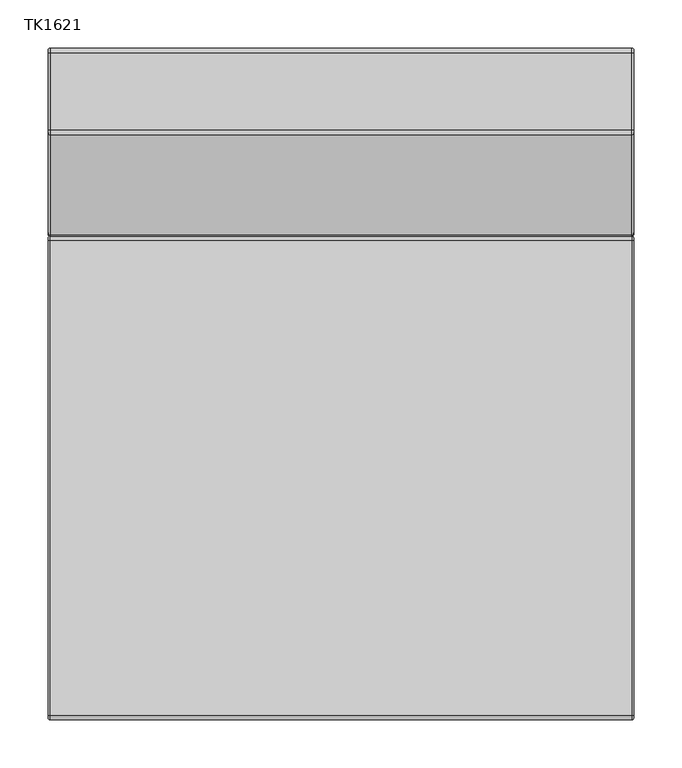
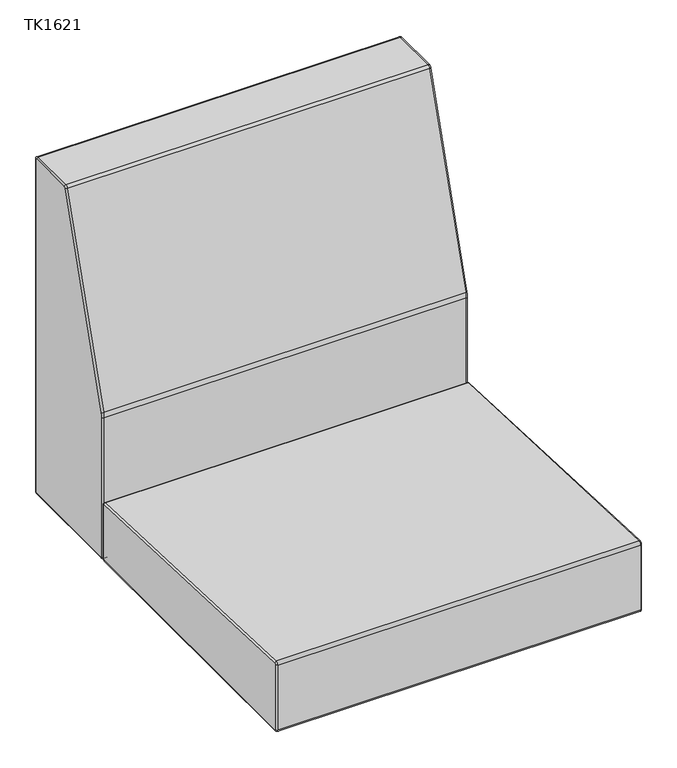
"""IFC4 building model written with IfcOpenShell, lengths in millimetres: furniture geometry, JSI-Teekan-Two_Seat_Lounge : TK1621."""

from ifc_helpers import new_model, si_unit, point, frame, origin, place, context, project, spatial, circle_curve, ellipse_curve, trimmed, source, transform, mapped, element, save
from ifc_brep_helpers import plane_surface, cylinder_surface, revolved_surface, advanced_brep


def tk1621_9733f8f7(model_context):
    return source(origin(), model_context, "Body", "AdvancedBrep", [
        advanced_brep(
        [(-607.21875, -349.25, 197.5346851), (-2.38125, -349.25, 197.5346851), (-2.38125, -349.25, 311.8407029), (-607.21875, -349.25, 311.8407029), (-609.6, -346.86875, 311.8407029), (-609.6, -346.86875, 197.5346851), (0.0, -346.86875, 197.5346851), (0.0, -346.86875, 311.8407029), (-607.21875, -344.2853462, 316.5989106), (-2.38125, -344.2853462, 316.5989106), (-2.38125, 149.169864, 295.6343219), (-607.21875, 149.169864, 295.6343219), (-609.6, 149.0687871, 293.255218), (-609.6, -344.3864231, 314.2198068), (0.0, -344.3864231, 314.2198068), (0.0, 149.0687871, 293.255218), (-2.38125, 153.7302102, 290.8761142), (-607.21875, 153.7302102, 290.8761142), (-609.6, 151.3489602, 290.8761142), (0.0, 151.3489602, 290.8761142), (-2.38125, 153.7302102, 197.5346851), (-607.21875, 153.7302102, 197.5346851), (-609.6, 151.3489602, 197.5346851), (0.0, 151.3489602, 197.5346851), (-2.38125, 148.9677102, 192.7721851), (-607.21875, 148.9677102, 192.7721851), (-609.6, 148.9677102, 195.1534351), (0.0, 148.9677102, 195.1534351), (-2.38125, -344.4875, 192.7721851), (-607.21875, -344.4875, 192.7721851), (-609.6, -344.4875, 195.1534351), (0.0, -344.4875, 195.1534351)],
        [
            (0, 1),
            (1, 2),
            (2, 3),
            (3, 0),
            (3, 4, circle_curve(frame((-607.21875, -346.86875, 311.8407029), z_axis=(0.0, 0.0, -1.0), x_axis=(0.0, -1.0, 0.0)), 2.38125)),
            (4, 5),
            (5, 0, circle_curve(frame((-607.21875, -346.86875, 197.5346851), z_axis=(0.0, 0.0, 1.0), x_axis=(0.0, -1.0, 0.0)), 2.38125)),
            (1, 6, circle_curve(frame((-2.38125, -346.86875, 197.5346851), z_axis=(0.0, 0.0, 1.0), x_axis=(0.0, -1.0, 0.0)), 2.38125)),
            (6, 7),
            (7, 2, circle_curve(frame((-2.38125, -346.86875, 311.8407029), z_axis=(0.0, 0.0, -1.0), x_axis=(0.0, -1.0, 0.0)), 2.38125)),
            (8, 9),
            (9, 10),
            (10, 11),
            (11, 8),
            (11, 12, circle_curve(frame((-607.21875, 149.0687871, 293.255218), z_axis=(0.0, -0.9990987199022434, 0.04244700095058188), x_axis=(0.0, 0.04244700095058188, 0.9990987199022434)), 2.38125)),
            (12, 13),
            (13, 8, circle_curve(frame((-607.21875, -344.3864231, 314.2198068), z_axis=(0.0, 0.9990987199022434, -0.04244700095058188), x_axis=(0.0, 0.04244700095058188, 0.9990987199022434)), 2.38125)),
            (9, 14, circle_curve(frame((-2.38125, -344.3864231, 314.2198068), z_axis=(0.0, 0.9990987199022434, -0.04244700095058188), x_axis=(0.0, 0.04244700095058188, 0.9990987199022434)), 2.38125)),
            (14, 15),
            (15, 10, circle_curve(frame((-2.38125, 149.0687871, 293.255218), z_axis=(0.0, -0.9990987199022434, 0.04244700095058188), x_axis=(0.0, 0.04244700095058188, 0.9990987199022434)), 2.38125)),
            (10, 16, circle_curve(frame((-2.38125, 148.9677102, 290.8761142), z_axis=(-1.0, 0.0, 0.0), x_axis=(0.0, 0.0424470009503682, 0.9990987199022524)), 4.7625)),
            (16, 17),
            (17, 11, circle_curve(frame((-607.21875, 148.9677102, 290.8761142), z_axis=(1.0, 0.0, 0.0), x_axis=(0.0, 0.0424470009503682, 0.9990987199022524)), 4.7625)),
            (17, 18, circle_curve(frame((-607.21875, 151.3489602, 290.8761142), z_axis=(0.0, 0.0, 1.0), x_axis=(0.0, 1.0, 0.0)), 2.38125)),
            (18, 12, circle_curve(frame((-609.6, 148.9677102, 290.8761142), z_axis=(1.0, 0.0, 0.0), x_axis=(0.0, 0.0424470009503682, 0.9990987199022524)), 2.38125)),
            (15, 19, circle_curve(frame((0.0, 148.9677102, 290.8761142), z_axis=(-1.0, 0.0, 0.0), x_axis=(0.0, 0.0424470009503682, 0.9990987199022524)), 2.38125)),
            (19, 16, circle_curve(frame((-2.38125, 151.3489602, 290.8761142), z_axis=(0.0, 0.0, 1.0), x_axis=(0.0, 1.0, 0.0)), 2.38125)),
            (16, 20),
            (20, 21),
            (21, 17),
            (21, 22, circle_curve(frame((-607.21875, 151.3489602, 197.5346851), z_axis=(0.0, 0.0, 1.0), x_axis=(0.0, 1.0, 0.0)), 2.38125)),
            (22, 18),
            (19, 23),
            (23, 20, circle_curve(frame((-2.38125, 151.3489602, 197.5346851), z_axis=(0.0, 0.0, 1.0), x_axis=(0.0, 1.0, 0.0)), 2.38125)),
            (20, 24, circle_curve(frame((-2.38125, 148.9677102, 197.5346851), z_axis=(-1.0, 0.0, 0.0), x_axis=(0.0, 1.0, 0.0)), 4.7625)),
            (24, 25),
            (25, 21, circle_curve(frame((-607.21875, 148.9677102, 197.5346851), z_axis=(1.0, 0.0, 0.0), x_axis=(0.0, 1.0, 0.0)), 4.7625)),
            (25, 26, circle_curve(frame((-607.21875, 148.9677102, 195.1534351), z_axis=(0.0, 1.0, 0.0), x_axis=(0.0, 0.0, -1.0)), 2.38125)),
            (26, 22, circle_curve(frame((-609.6, 148.9677102, 197.5346851), z_axis=(1.0, 0.0, 0.0), x_axis=(0.0, 1.0, 0.0)), 2.38125)),
            (23, 27, circle_curve(frame((0.0, 148.9677102, 197.5346851), z_axis=(-1.0, 0.0, 0.0), x_axis=(0.0, 1.0, 0.0)), 2.38125)),
            (27, 24, circle_curve(frame((-2.38125, 148.9677102, 195.1534351), z_axis=(0.0, 1.0, 0.0), x_axis=(0.0, 0.0, -1.0)), 2.38125)),
            (24, 28),
            (28, 29),
            (29, 25),
            (29, 30, circle_curve(frame((-607.21875, -344.4875, 195.1534351), z_axis=(0.0, 1.0, 0.0), x_axis=(0.0, 0.0, -1.0)), 2.38125)),
            (30, 26),
            (27, 31),
            (31, 28, circle_curve(frame((-2.38125, -344.4875, 195.1534351), z_axis=(0.0, 1.0, 0.0), x_axis=(0.0, 0.0, -1.0)), 2.38125)),
            (0, 29, circle_curve(frame((-607.21875, -344.4875, 197.5346851), z_axis=(1.0, 0.0, 0.0), x_axis=(0.0, 0.0, -1.0)), 4.7625)),
            (28, 1, circle_curve(frame((-2.38125, -344.4875, 197.5346851), z_axis=(-1.0, 0.0, 0.0), x_axis=(0.0, 0.0, -1.0)), 4.7625)),
            (5, 30, circle_curve(frame((-609.6, -344.4875, 197.5346851), z_axis=(1.0, 0.0, 0.0), x_axis=(0.0, 0.0, -1.0)), 2.38125)),
            (31, 6, circle_curve(frame((0.0, -344.4875, 197.5346851), z_axis=(-1.0, 0.0, 0.0), x_axis=(0.0, 0.0, -1.0)), 2.38125)),
            (2, 9, circle_curve(frame((-2.38125, -344.4875, 311.8407029), z_axis=(-1.0, 0.0, 0.0), x_axis=(0.0, -1.0, 0.0)), 4.7625)),
            (8, 3, circle_curve(frame((-607.21875, -344.4875, 311.8407029), z_axis=(1.0, 0.0, 0.0), x_axis=(0.0, -1.0, 0.0)), 4.7625)),
            (13, 4, circle_curve(frame((-609.6, -344.4875, 311.8407029), z_axis=(1.0, 0.0, 0.0), x_axis=(0.0, -1.0, 0.0)), 2.38125)),
            (14, 7, circle_curve(frame((0.0, -344.4875, 311.8407029), z_axis=(1.0, 0.0, 0.0), x_axis=(0.0, -1.0, 0.0)), 2.38125)),
        ],
        [
            plane_surface(frame((-2.38125, -349.25, 197.5346851), z_axis=(0.0, -1.0, 0.0), x_axis=(0.0, 0.0, 1.0))),
            cylinder_surface(frame((-607.21875, -346.86875, 197.5346851), z_axis=(0.0, 0.0, -1.0), x_axis=(0.0, -1.0, 0.0)), 2.38125),
            cylinder_surface(frame((-2.38125, -346.86875, 197.5346851), z_axis=(0.0, 0.0, -1.0), x_axis=(0.0, -1.0, 0.0)), 2.38125),
            plane_surface(frame((-2.38125, -344.2853462, 316.5989106), z_axis=(0.0, 0.04244700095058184, 0.9990987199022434), x_axis=(0.0, 0.9990987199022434, -0.04244700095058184))),
            cylinder_surface(frame((-607.21875, -344.3864231, 314.2198068), z_axis=(0.0, -0.9990987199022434, 0.04244700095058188), x_axis=(0.0, 0.04244700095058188, 0.9990987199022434)), 2.38125),
            cylinder_surface(frame((-2.38125, -344.3864231, 314.2198068), z_axis=(0.0, -0.9990987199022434, 0.04244700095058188), x_axis=(0.0, 0.04244700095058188, 0.9990987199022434)), 2.38125),
            cylinder_surface(frame((-304.8, 148.9677102, 290.8761142), z_axis=(-1.0, 0.0, 0.0), x_axis=(0.0, 0.0424470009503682, 0.9990987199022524)), 4.7625),
            revolved_surface(trimmed(ellipse_curve(frame((-607.21875, 149.0687871, 293.255218), z_axis=(0.0, -0.9990987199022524, 0.042447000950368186), x_axis=(0.0, 0.042447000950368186, 0.9990987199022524)), 2.38125, 2.38125), [point((-607.21875, 149.169864, 295.6343219))], [point((-609.6, 149.0687871, 293.255218))], True, "CARTESIAN"), (-304.8, 148.9677102, 290.8761142), (-1.0, 0.0, 0.0)),
            revolved_surface(trimmed(ellipse_curve(frame((-2.38125, 149.0687871, 293.255218), z_axis=(0.0, -0.9990987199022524, 0.042447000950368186), x_axis=(0.0, 0.042447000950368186, 0.9990987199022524)), 2.38125, 2.38125), [point((0.0, 149.0687871, 293.255218))], [point((-2.38125, 149.169864, 295.6343219))], True, "CARTESIAN"), (-304.8, 148.9677102, 290.8761142), (-1.0, 0.0, 0.0)),
            plane_surface(frame((-2.38125, 153.7302102, 290.8761142), z_axis=(0.0, 1.0, 0.0), x_axis=(0.0, 0.0, -1.0))),
            cylinder_surface(frame((-607.21875, 151.3489602, 290.8761142), z_axis=(0.0, 0.0, 1.0), x_axis=(0.0, 1.0, 0.0)), 2.38125),
            cylinder_surface(frame((-2.38125, 151.3489602, 290.8761142), z_axis=(0.0, 0.0, 1.0), x_axis=(0.0, 1.0, 0.0)), 2.38125),
            cylinder_surface(frame((-304.8, 148.9677102, 197.5346851), z_axis=(-1.0, 0.0, 0.0), x_axis=(0.0, 1.0, 0.0)), 4.7625),
            revolved_surface(trimmed(ellipse_curve(frame((-607.21875, 151.3489602, 197.5346851), z_axis=(0.0, 0.0, 1.0), x_axis=(0.0, 1.0, 0.0)), 2.38125, 2.38125), [point((-607.21875, 153.7302102, 197.5346851))], [point((-609.6, 151.3489602, 197.5346851))], True, "CARTESIAN"), (-304.8, 148.9677102, 197.5346851), (-1.0, 0.0, 0.0)),
            revolved_surface(trimmed(ellipse_curve(frame((-2.38125, 151.3489602, 197.5346851), z_axis=(0.0, 0.0, 1.0), x_axis=(0.0, 1.0, 0.0)), 2.38125, 2.38125), [point((0.0, 151.3489602, 197.5346851))], [point((-2.38125, 153.7302102, 197.5346851))], True, "CARTESIAN"), (-304.8, 148.9677102, 197.5346851), (-1.0, 0.0, 0.0)),
            plane_surface(frame((-2.38125, 148.9677102, 192.7721851), z_axis=(0.0, 0.0, -1.0), x_axis=(0.0, -1.0, 0.0))),
            cylinder_surface(frame((-607.21875, 148.9677102, 195.1534351), z_axis=(0.0, 1.0, 0.0), x_axis=(0.0, 0.0, -1.0)), 2.38125),
            cylinder_surface(frame((-2.38125, 148.9677102, 195.1534351), z_axis=(0.0, 1.0, 0.0), x_axis=(0.0, 0.0, -1.0)), 2.38125),
            cylinder_surface(frame((-304.8, -344.4875, 197.5346851), z_axis=(-1.0, 0.0, 0.0), x_axis=(0.0, 0.0, -1.0)), 4.7625),
            revolved_surface(trimmed(ellipse_curve(frame((-607.21875, -344.4875, 195.1534351), z_axis=(0.0, 1.0, 0.0), x_axis=(0.0, 0.0, -1.0)), 2.38125, 2.38125), [point((-607.21875, -344.4875, 192.7721851))], [point((-609.6, -344.4875, 195.1534351))], True, "CARTESIAN"), (-304.8, -344.4875, 197.5346851), (-1.0, 0.0, 0.0)),
            revolved_surface(trimmed(ellipse_curve(frame((-2.38125, -344.4875, 195.1534351), z_axis=(0.0, 1.0, 0.0), x_axis=(0.0, 0.0, -1.0)), 2.38125, 2.38125), [point((0.0, -344.4875, 195.1534351))], [point((-2.38125, -344.4875, 192.7721851))], True, "CARTESIAN"), (-304.8, -344.4875, 197.5346851), (-1.0, 0.0, 0.0)),
            cylinder_surface(frame((-304.8, -344.4875, 311.8407029), z_axis=(-1.0, 0.0, 0.0), x_axis=(0.0, -1.0, 0.0)), 4.7625),
            revolved_surface(trimmed(ellipse_curve(frame((-607.21875, -346.86875, 311.8407029), z_axis=(0.0, 0.0, -1.0), x_axis=(0.0, -1.0, 0.0)), 2.38125, 2.38125), [point((-607.21875, -349.25, 311.8407029))], [point((-609.6, -346.86875, 311.8407029))], True, "CARTESIAN"), (-304.8, -344.4875, 311.8407029), (-1.0, 0.0, 0.0)),
            plane_surface(frame((-609.6, -344.4875, 311.8407029), z_axis=(-1.0, 0.0, 0.0), x_axis=(0.0, -1.0, 0.0))),
            plane_surface(frame((0.0, -344.4875, 311.8407029), z_axis=(1.0, 0.0, 0.0), x_axis=(0.0, -1.0, 0.0))),
            revolved_surface(trimmed(ellipse_curve(frame((-2.38125, -346.86875, 311.8407029), z_axis=(0.0, 0.0, -1.0), x_axis=(0.0, -1.0, 0.0)), 2.38125, 2.38125), [point((0.0, -346.86875, 311.8407029))], [point((-2.38125, -349.25, 311.8407029))], True, "CARTESIAN"), (-304.8, -344.4875, 311.8407029), (-1.0, 0.0, 0.0)),
        ],
        [
            (0, [[1, 2, 3, 4]]),
            (1, [[-4, 5, 6, 7]]),
            (2, [[-2, 8, 9, 10]]),
            (3, [[11, 12, 13, 14]]),
            (4, [[-14, 15, 16, 17]]),
            (5, [[-12, 18, 19, 20]]),
            (6, [[-13, 21, 22, 23]]),
            (7, [[-15, -23, 24, 25]]),
            (8, [[-20, 26, 27, -21]]),
            (9, [[-22, 28, 29, 30]]),
            (10, [[-24, -30, 31, 32]]),
            (11, [[-27, 33, 34, -28]]),
            (12, [[-29, 35, 36, 37]]),
            (13, [[-31, -37, 38, 39]]),
            (14, [[-34, 40, 41, -35]]),
            (15, [[-36, 42, 43, 44]]),
            (16, [[-38, -44, 45, 46]]),
            (17, [[-41, 47, 48, -42]]),
            (18, [[-1, 49, -43, 50]]),
            (19, [[-7, 51, -45, -49]]),
            (20, [[-8, -50, -48, 52]]),
            (21, [[-3, 53, -11, 54]]),
            (22, [[-5, -54, -17, 55]]),
            (23, [[-6, -55, -16, -25, -32, -39, -46, -51]]),
            (24, [[-9, -52, -47, -40, -33, -26, -19, 56]]),
            (25, [[-10, -56, -18, -53]]),
        ],
    ),
        advanced_brep(
        [(0.0, 261.4671324, 783.3496278), (0.0, 263.7394056, 785.01875), (-2.38125, 263.7394056, 787.4), (-2.38125, 259.1948592, 784.0617556), (-607.21875, 259.1948592, 784.0617556), (-607.21875, 263.7394056, 787.4), (-609.6, 263.7394056, 785.01875), (-609.6, 261.4671324, 783.3496278), (-2.38125, 155.07802, 451.8434221), (0.0, 157.3502932, 451.1312943), (-609.6, 157.3502932, 451.1312943), (-607.21875, 155.07802, 451.8434221), (-2.38125, 153.733973, 443.0605128), (0.0, 156.115223, 443.0605128), (-609.6, 156.115223, 443.0605128), (-607.21875, 153.733973, 443.0605128), (-2.38125, 153.733973, 197.5346851), (0.0, 156.115223, 197.5346851), (-609.6, 156.115223, 197.5346851), (-607.21875, 153.733973, 197.5346851), (-2.38125, 158.496473, 192.7721851), (0.0, 158.496473, 195.1534351), (-609.6, 158.496473, 195.1534351), (-607.21875, 158.496473, 192.7721851), (-2.38125, 344.4875, 192.7721851), (0.0, 344.4875, 195.1534351), (-609.6, 344.4875, 195.1534351), (-607.21875, 344.4875, 192.7721851), (-2.38125, 349.25, 197.5346851), (0.0, 346.86875, 197.5346851), (-609.6, 346.86875, 197.5346851), (-607.21875, 349.25, 197.5346851), (-2.38125, 349.25, 782.6375), (0.0, 346.86875, 782.6375), (-609.6, 346.86875, 782.6375), (-607.21875, 349.25, 782.6375), (-2.38125, 344.4875, 787.4), (0.0, 344.4875, 785.01875), (-609.6, 344.4875, 785.01875), (-607.21875, 344.4875, 787.4)],
        [
            (0, 1, circle_curve(frame((0.0, 263.7394056, 782.6375), z_axis=(-1.0, 0.0, 0.0), x_axis=(0.0, 0.0, 1.0)), 2.38125)),
            (1, 2, circle_curve(frame((-2.38125, 263.7394056, 785.01875), z_axis=(0.0, -1.0, 0.0), x_axis=(0.0, 0.0, -1.0)), 2.38125)),
            (2, 3, circle_curve(frame((-2.38125, 263.7394056, 782.6375), z_axis=(1.0, 0.0, 0.0), x_axis=(0.0, 0.0, 1.0)), 4.7625)),
            (3, 0, circle_curve(frame((-2.38125, 261.4671324, 783.3496278), z_axis=(0.0, 0.29905628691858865, 0.9542354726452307), x_axis=(0.0, 0.9542354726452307, -0.29905628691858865)), 2.38125)),
            (4, 5, circle_curve(frame((-607.21875, 263.7394056, 782.6375), z_axis=(-1.0, 0.0, 0.0), x_axis=(0.0, 0.0, 1.0)), 4.7625)),
            (5, 6, circle_curve(frame((-607.21875, 263.7394056, 785.01875), z_axis=(0.0, -1.0, 0.0), x_axis=(0.0, 0.0, -1.0)), 2.38125)),
            (6, 7, circle_curve(frame((-609.6, 263.7394056, 782.6375), z_axis=(1.0, 0.0, 0.0), x_axis=(0.0, 0.0, 1.0)), 2.38125)),
            (7, 4, circle_curve(frame((-607.21875, 261.4671324, 783.3496278), z_axis=(0.0, 0.2990562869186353, 0.954235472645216), x_axis=(0.0, 0.954235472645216, -0.2990562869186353)), 2.38125)),
            (2, 5),
            (4, 3),
            (3, 8),
            (8, 9, circle_curve(frame((-2.38125, 157.3502932, 451.1312943), z_axis=(0.0, 0.29905628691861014, 0.954235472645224), x_axis=(0.0, 0.954235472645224, -0.29905628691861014)), 2.38125)),
            (9, 0),
            (7, 10),
            (10, 11, circle_curve(frame((-607.21875, 157.3502932, 451.1312943), z_axis=(0.0, 0.29905628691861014, 0.954235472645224), x_axis=(0.0, 0.954235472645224, -0.29905628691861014)), 2.38125)),
            (11, 4),
            (11, 8),
            (8, 12, circle_curve(frame((-2.38125, 183.102723, 443.0605128), z_axis=(1.0, 0.0, 0.0), x_axis=(0.0, -0.9542354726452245, 0.29905628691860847)), 29.36875)),
            (12, 13, circle_curve(frame((-2.38125, 156.115223, 443.0605128), z_axis=(0.0, 0.0, 1.0), x_axis=(0.0, 1.0, 0.0)), 2.38125)),
            (13, 9, circle_curve(frame((0.0, 183.102723, 443.0605128), z_axis=(-1.0, 0.0, 0.0), x_axis=(0.0, -0.9542354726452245, 0.29905628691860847)), 26.9875)),
            (10, 14, circle_curve(frame((-609.6, 183.102723, 443.0605128), z_axis=(1.0, 0.0, 0.0), x_axis=(0.0, -0.9542354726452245, 0.29905628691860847)), 26.9875)),
            (14, 15, circle_curve(frame((-607.21875, 156.115223, 443.0605128), z_axis=(0.0, 0.0, 1.0), x_axis=(0.0, 1.0, 0.0)), 2.38125)),
            (15, 11, circle_curve(frame((-607.21875, 183.102723, 443.0605128), z_axis=(-1.0, 0.0, 0.0), x_axis=(0.0, -0.9542354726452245, 0.29905628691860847)), 29.36875)),
            (15, 12),
            (12, 16),
            (16, 17, circle_curve(frame((-2.38125, 156.115223, 197.5346851), z_axis=(0.0, 0.0, 1.0), x_axis=(0.0, 1.0, 0.0)), 2.38125)),
            (17, 13),
            (14, 18),
            (18, 19, circle_curve(frame((-607.21875, 156.115223, 197.5346851), z_axis=(0.0, 0.0, 1.0), x_axis=(0.0, 1.0, 0.0)), 2.38125)),
            (19, 15),
            (19, 16),
            (16, 20, circle_curve(frame((-2.38125, 158.496473, 197.5346851), z_axis=(1.0, 0.0, 0.0), x_axis=(0.0, -1.0, 0.0)), 4.7625)),
            (20, 21, circle_curve(frame((-2.38125, 158.496473, 195.1534351), z_axis=(0.0, -1.0, 0.0), x_axis=(0.0, 0.0, 1.0)), 2.38125)),
            (21, 17, circle_curve(frame((0.0, 158.496473, 197.5346851), z_axis=(-1.0, 0.0, 0.0), x_axis=(0.0, -1.0, 0.0)), 2.38125)),
            (18, 22, circle_curve(frame((-609.6, 158.496473, 197.5346851), z_axis=(1.0, 0.0, 0.0), x_axis=(0.0, -1.0, 0.0)), 2.38125)),
            (22, 23, circle_curve(frame((-607.21875, 158.496473, 195.1534351), z_axis=(0.0, -1.0, 0.0), x_axis=(0.0, 0.0, 1.0)), 2.38125)),
            (23, 19, circle_curve(frame((-607.21875, 158.496473, 197.5346851), z_axis=(-1.0, 0.0, 0.0), x_axis=(0.0, -1.0, 0.0)), 4.7625)),
            (23, 20),
            (20, 24),
            (24, 25, circle_curve(frame((-2.38125, 344.4875, 195.1534351), z_axis=(0.0, -1.0, 0.0), x_axis=(0.0, 0.0, 1.0)), 2.38125)),
            (25, 21),
            (22, 26),
            (26, 27, circle_curve(frame((-607.21875, 344.4875, 195.1534351), z_axis=(0.0, -1.0, 0.0), x_axis=(0.0, 0.0, 1.0)), 2.38125)),
            (27, 23),
            (27, 24),
            (24, 28, circle_curve(frame((-2.38125, 344.4875, 197.5346851), z_axis=(1.0, 0.0, 0.0), x_axis=(0.0, 0.0, -1.0)), 4.7625)),
            (28, 29, circle_curve(frame((-2.38125, 346.86875, 197.5346851), z_axis=(0.0, 0.0, -1.0), x_axis=(0.0, -1.0, 0.0)), 2.38125)),
            (29, 25, circle_curve(frame((0.0, 344.4875, 197.5346851), z_axis=(-1.0, 0.0, 0.0), x_axis=(0.0, 0.0, -1.0)), 2.38125)),
            (26, 30, circle_curve(frame((-609.6, 344.4875, 197.5346851), z_axis=(1.0, 0.0, 0.0), x_axis=(0.0, 0.0, -1.0)), 2.38125)),
            (30, 31, circle_curve(frame((-607.21875, 346.86875, 197.5346851), z_axis=(0.0, 0.0, -1.0), x_axis=(0.0, -1.0, 0.0)), 2.38125)),
            (31, 27, circle_curve(frame((-607.21875, 344.4875, 197.5346851), z_axis=(-1.0, 0.0, 0.0), x_axis=(0.0, 0.0, -1.0)), 4.7625)),
            (31, 28),
            (28, 32),
            (32, 33, circle_curve(frame((-2.38125, 346.86875, 782.6375), z_axis=(0.0, 0.0, -1.0), x_axis=(0.0, -1.0, 0.0)), 2.38125)),
            (33, 29),
            (30, 34),
            (34, 35, circle_curve(frame((-607.21875, 346.86875, 782.6375), z_axis=(0.0, 0.0, -1.0), x_axis=(0.0, -1.0, 0.0)), 2.38125)),
            (35, 31),
            (35, 32),
            (32, 36, circle_curve(frame((-2.38125, 344.4875, 782.6375), z_axis=(1.0, 0.0, 0.0), x_axis=(0.0, 1.0, 0.0)), 4.7625)),
            (36, 37, circle_curve(frame((-2.38125, 344.4875, 785.01875), z_axis=(0.0, 1.0, 0.0), x_axis=(0.0, 0.0, -1.0)), 2.38125)),
            (37, 33, circle_curve(frame((0.0, 344.4875, 782.6375), z_axis=(-1.0, 0.0, 0.0), x_axis=(0.0, 1.0, 0.0)), 2.38125)),
            (34, 38, circle_curve(frame((-609.6, 344.4875, 782.6375), z_axis=(1.0, 0.0, 0.0), x_axis=(0.0, 1.0, 0.0)), 2.38125)),
            (38, 39, circle_curve(frame((-607.21875, 344.4875, 785.01875), z_axis=(0.0, 1.0, 0.0), x_axis=(0.0, 0.0, -1.0)), 2.38125)),
            (39, 35, circle_curve(frame((-607.21875, 344.4875, 782.6375), z_axis=(-1.0, 0.0, 0.0), x_axis=(0.0, 1.0, 0.0)), 4.7625)),
            (39, 36),
            (1, 37),
            (36, 2),
            (6, 38),
            (5, 39),
        ],
        [
            revolved_surface(trimmed(ellipse_curve(frame((-2.38125, 263.7394056, 785.01875), z_axis=(0.0, 1.0, 0.0), x_axis=(0.0, 0.0, -1.0)), 2.38125, 2.38125), [point((-2.38125, 263.7394056, 787.4))], [point((0.0, 263.7394056, 785.01875))], True, "CARTESIAN"), (-304.8, 263.7394056, 782.6375), (1.0, 0.0, 0.0)),
            revolved_surface(trimmed(ellipse_curve(frame((-607.21875, 263.7394056, 785.01875), z_axis=(0.0, 1.0, 0.0), x_axis=(0.0, 0.0, -1.0)), 2.38125, 2.38125), [point((-609.6, 263.7394056, 785.01875))], [point((-607.21875, 263.7394056, 787.4))], True, "CARTESIAN"), (-304.8, 263.7394056, 782.6375), (1.0, 0.0, 0.0)),
            cylinder_surface(frame((-304.8, 263.7394056, 782.6375), z_axis=(1.0, 0.0, 0.0), x_axis=(0.0, 0.0, 1.0)), 4.7625),
            cylinder_surface(frame((-2.38125, 261.4671324, 783.3496278), z_axis=(0.0, 0.29905628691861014, 0.954235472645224), x_axis=(0.0, 0.954235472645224, -0.29905628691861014)), 2.38125),
            cylinder_surface(frame((-607.21875, 261.4671324, 783.3496278), z_axis=(0.0, 0.29905628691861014, 0.954235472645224), x_axis=(0.0, 0.954235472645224, -0.29905628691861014)), 2.38125),
            plane_surface(frame((-607.21875, 259.1948592, 784.0617556), z_axis=(0.0, -0.954235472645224, 0.29905628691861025), x_axis=(0.0, -0.29905628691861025, -0.954235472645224))),
            revolved_surface(trimmed(ellipse_curve(frame((-2.38125, 157.3502932, 451.1312943), z_axis=(0.0, 0.299056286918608, 0.9542354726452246), x_axis=(0.0, 0.9542354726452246, -0.299056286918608)), 2.38125, 2.38125), [point((-2.38125, 155.07802, 451.8434221))], [point((0.0, 157.3502932, 451.1312943))], True, "CARTESIAN"), (-304.8, 183.102723, 443.0605128), (1.0, 0.0, 0.0)),
            revolved_surface(trimmed(ellipse_curve(frame((-607.21875, 157.3502932, 451.1312943), z_axis=(0.0, 0.299056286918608, 0.9542354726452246), x_axis=(0.0, 0.9542354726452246, -0.299056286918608)), 2.38125, 2.38125), [point((-609.6, 157.3502932, 451.1312943))], [point((-607.21875, 155.07802, 451.8434221))], True, "CARTESIAN"), (-304.8, 183.102723, 443.0605128), (1.0, 0.0, 0.0)),
            cylinder_surface(frame((-304.8, 183.102723, 443.0605128), z_axis=(1.0, 0.0, 0.0), x_axis=(0.0, -0.9542354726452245, 0.29905628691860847)), 29.36875),
            cylinder_surface(frame((-2.38125, 156.115223, 443.0605128), z_axis=(0.0, 0.0, 1.0), x_axis=(0.0, 1.0, 0.0)), 2.38125),
            cylinder_surface(frame((-607.21875, 156.115223, 443.0605128), z_axis=(0.0, 0.0, 1.0), x_axis=(0.0, 1.0, 0.0)), 2.38125),
            plane_surface(frame((-607.21875, 153.733973, 443.0605128), z_axis=(0.0, -1.0, 0.0), x_axis=(0.0, 0.0, -1.0))),
            revolved_surface(trimmed(ellipse_curve(frame((-2.38125, 156.115223, 197.5346851), z_axis=(0.0, 0.0, 1.0), x_axis=(0.0, 1.0, 0.0)), 2.38125, 2.38125), [point((-2.38125, 153.733973, 197.5346851))], [point((0.0, 156.115223, 197.5346851))], True, "CARTESIAN"), (-304.8, 158.496473, 197.5346851), (1.0, 0.0, 0.0)),
            revolved_surface(trimmed(ellipse_curve(frame((-607.21875, 156.115223, 197.5346851), z_axis=(0.0, 0.0, 1.0), x_axis=(0.0, 1.0, 0.0)), 2.38125, 2.38125), [point((-609.6, 156.115223, 197.5346851))], [point((-607.21875, 153.733973, 197.5346851))], True, "CARTESIAN"), (-304.8, 158.496473, 197.5346851), (1.0, 0.0, 0.0)),
            cylinder_surface(frame((-304.8, 158.496473, 197.5346851), z_axis=(1.0, 0.0, 0.0), x_axis=(0.0, -1.0, 0.0)), 4.7625),
            cylinder_surface(frame((-2.38125, 158.496473, 195.1534351), z_axis=(0.0, -1.0, 0.0), x_axis=(0.0, 0.0, 1.0)), 2.38125),
            cylinder_surface(frame((-607.21875, 158.496473, 195.1534351), z_axis=(0.0, -1.0, 0.0), x_axis=(0.0, 0.0, 1.0)), 2.38125),
            plane_surface(frame((-607.21875, 158.496473, 192.7721851), z_axis=(0.0, 0.0, -1.0), x_axis=(0.0, 1.0, 0.0))),
            revolved_surface(trimmed(ellipse_curve(frame((-2.38125, 344.4875, 195.1534351), z_axis=(0.0, -1.0, 0.0), x_axis=(0.0, 0.0, 1.0)), 2.38125, 2.38125), [point((-2.38125, 344.4875, 192.7721851))], [point((0.0, 344.4875, 195.1534351))], True, "CARTESIAN"), (-304.8, 344.4875, 197.5346851), (1.0, 0.0, 0.0)),
            revolved_surface(trimmed(ellipse_curve(frame((-607.21875, 344.4875, 195.1534351), z_axis=(0.0, -1.0, 0.0), x_axis=(0.0, 0.0, 1.0)), 2.38125, 2.38125), [point((-609.6, 344.4875, 195.1534351))], [point((-607.21875, 344.4875, 192.7721851))], True, "CARTESIAN"), (-304.8, 344.4875, 197.5346851), (1.0, 0.0, 0.0)),
            cylinder_surface(frame((-304.8, 344.4875, 197.5346851), z_axis=(1.0, 0.0, 0.0), x_axis=(0.0, 0.0, -1.0)), 4.7625),
            cylinder_surface(frame((-2.38125, 346.86875, 197.5346851), z_axis=(0.0, 0.0, -1.0), x_axis=(0.0, -1.0, 0.0)), 2.38125),
            cylinder_surface(frame((-607.21875, 346.86875, 197.5346851), z_axis=(0.0, 0.0, -1.0), x_axis=(0.0, -1.0, 0.0)), 2.38125),
            plane_surface(frame((-607.21875, 349.25, 197.5346851), z_axis=(0.0, 1.0, 0.0), x_axis=(0.0, 0.0, 1.0))),
            revolved_surface(trimmed(ellipse_curve(frame((-2.38125, 346.86875, 782.6375), z_axis=(0.0, 0.0, -1.0), x_axis=(0.0, -1.0, 0.0)), 2.38125, 2.38125), [point((-2.38125, 349.25, 782.6375))], [point((0.0, 346.86875, 782.6375))], True, "CARTESIAN"), (-304.8, 344.4875, 782.6375), (1.0, 0.0, 0.0)),
            revolved_surface(trimmed(ellipse_curve(frame((-607.21875, 346.86875, 782.6375), z_axis=(0.0, 0.0, -1.0), x_axis=(0.0, -1.0, 0.0)), 2.38125, 2.38125), [point((-609.6, 346.86875, 782.6375))], [point((-607.21875, 349.25, 782.6375))], True, "CARTESIAN"), (-304.8, 344.4875, 782.6375), (1.0, 0.0, 0.0)),
            cylinder_surface(frame((-304.8, 344.4875, 782.6375), z_axis=(1.0, 0.0, 0.0), x_axis=(0.0, 1.0, 0.0)), 4.7625),
            cylinder_surface(frame((-2.38125, 344.4875, 785.01875), z_axis=(0.0, 1.0, 0.0), x_axis=(0.0, 0.0, -1.0)), 2.38125),
            plane_surface(frame((0.0, 344.4875, 785.01875), z_axis=(1.0, 0.0, 0.0), x_axis=(0.0, -1.0, 0.0))),
            plane_surface(frame((-609.6, 344.4875, 783.43125), z_axis=(-1.0, 0.0, 0.0), x_axis=(0.0, -1.0, 0.0))),
            cylinder_surface(frame((-607.21875, 344.4875, 785.01875), z_axis=(0.0, 1.0, 0.0), x_axis=(0.0, 0.0, -1.0)), 2.38125),
            plane_surface(frame((-607.21875, 344.4875, 787.4), z_axis=(0.0, 0.0, 1.0), x_axis=(0.0, -1.0, 0.0))),
        ],
        [
            (0, [[1, 2, 3, 4]]),
            (1, [[5, 6, 7, 8]]),
            (2, [[-3, 9, -5, 10]]),
            (3, [[-4, 11, 12, 13]]),
            (4, [[-8, 14, 15, 16]]),
            (5, [[-10, -16, 17, -11]]),
            (6, [[-12, 18, 19, 20]]),
            (7, [[-15, 21, 22, 23]]),
            (8, [[-17, -23, 24, -18]]),
            (9, [[-19, 25, 26, 27]]),
            (10, [[-22, 28, 29, 30]]),
            (11, [[-24, -30, 31, -25]]),
            (12, [[-26, 32, 33, 34]]),
            (13, [[-29, 35, 36, 37]]),
            (14, [[-31, -37, 38, -32]]),
            (15, [[-33, 39, 40, 41]]),
            (16, [[-36, 42, 43, 44]]),
            (17, [[-38, -44, 45, -39]]),
            (18, [[-40, 46, 47, 48]]),
            (19, [[-43, 49, 50, 51]]),
            (20, [[-45, -51, 52, -46]]),
            (21, [[-47, 53, 54, 55]]),
            (22, [[-50, 56, 57, 58]]),
            (23, [[-52, -58, 59, -53]]),
            (24, [[-54, 60, 61, 62]]),
            (25, [[-57, 63, 64, 65]]),
            (26, [[-59, -65, 66, -60]]),
            (27, [[-2, 67, -61, 68]]),
            (28, [[-1, -13, -20, -27, -34, -41, -48, -55, -62, -67]]),
            (29, [[-7, 69, -63, -56, -49, -42, -35, -28, -21, -14]]),
            (30, [[-6, 70, -64, -69]]),
            (31, [[-9, -68, -66, -70]]),
        ],
    ),
    ])


if __name__ == "__main__":
    model = new_model("IFC4")
    model_context = context("Model", 3, world=origin())
    ifc_project = project(units=[si_unit("LENGTHUNIT", "METRE", prefix="MILLI")], contexts=[model_context])
    site = spatial("IfcSite", under=ifc_project)
    building = spatial("IfcBuilding", under=site)
    placement = place(None, origin())
    tk1621_shape = tk1621_9733f8f7(model_context)
    element("IfcFurniture", 1, ObjectType="JSI-Teekan-Two_Seat_Lounge : TK1621", at=placement, inside=building, context=model_context, shape_type="MappedRepresentation", body=[
        mapped(tk1621_shape, transform((0.0, 0.0, 0.0), x_axis=(1.0, 0.0, 0.0), y_axis=(0.0, 1.0, 0.0), z_axis=(0.0, 0.0, 1.0))),
    ])
    save(model, "model.ifc")
